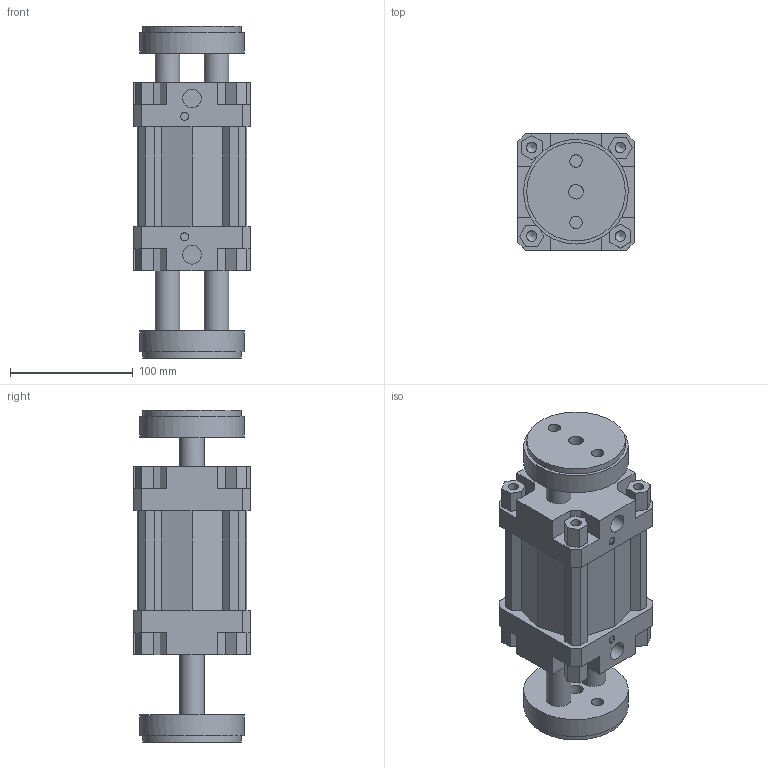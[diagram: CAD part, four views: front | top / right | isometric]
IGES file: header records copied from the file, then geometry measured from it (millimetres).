
Global section: file name: 132#_080_0025_06; native system: Autodesk Inventor 2014; preprocessor: unknown; author: A. Manieri; date: 20161006.162306; units: millimetre
Bounding box: 95 x 95 x 270 mm (x, y, z)
Volume: 1291737.5 mm3; surface area: 210073.5 mm2
Topology: 2 solids, 2 shells, 190 faces, 518 edges, 354 vertices
Faces by surface type: bspline 190
